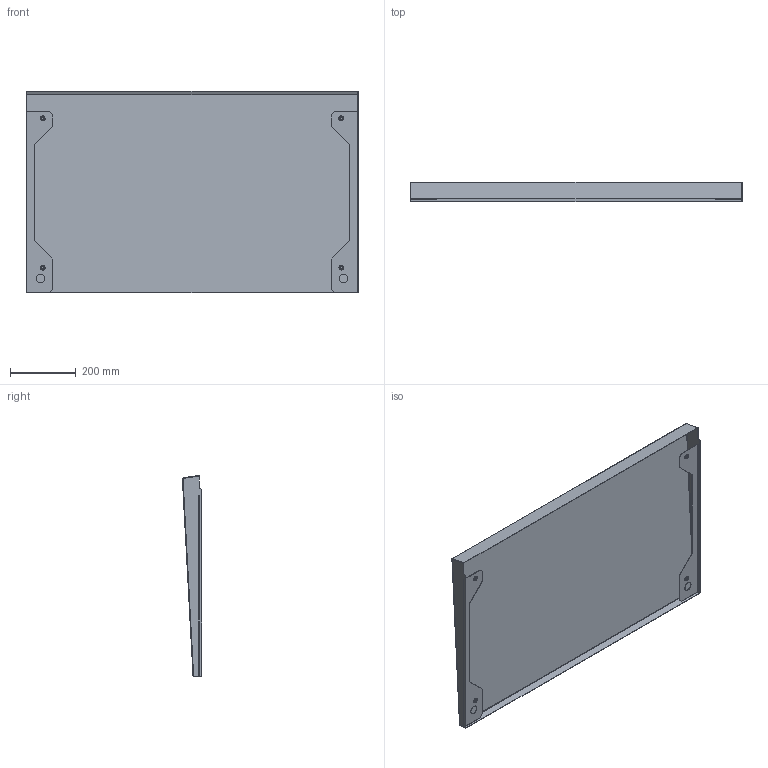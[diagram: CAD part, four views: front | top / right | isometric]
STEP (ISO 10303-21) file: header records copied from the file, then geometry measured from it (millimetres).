
FILE_DESCRIPTION (( 'STEP AP203' ), '1' );
FILE_NAME ('R 100.60 Cﾁ ﾊ鰀靍裲 鈞隆.STEP', '2012-11-21T04:28:10', ( 'system' ), ( '' ), 'SwSTEP 2.0', 'SolidWorks 2012', '' );
FILE_SCHEMA (( 'CONFIG_CONTROL_DESIGN' ));
Length unit declared in the file: millimetre
Products named in the file (1): R 100.60 Cﾁ ﾊ鰀靍裲 鈞隆
Bounding box: 1010 x 58.97 x 613.57 mm (x, y, z)
Volume: 1099773.9 mm3; surface area: 1577191.6 mm2
Topology: 5 solids, 5 shells, 152 faces, 354 edges, 224 vertices
Faces by surface type: cylinder 60, plane 60, torus 16, cone 8, sphere 8
Entity records: 4419 total; most frequent: DIRECTION 824, CARTESIAN_POINT 731, ORIENTED_EDGE 692, EDGE_CURVE 346, AXIS2_PLACEMENT_3D 329, VERTEX_POINT 220, EDGE_LOOP 188, CIRCLE 176
